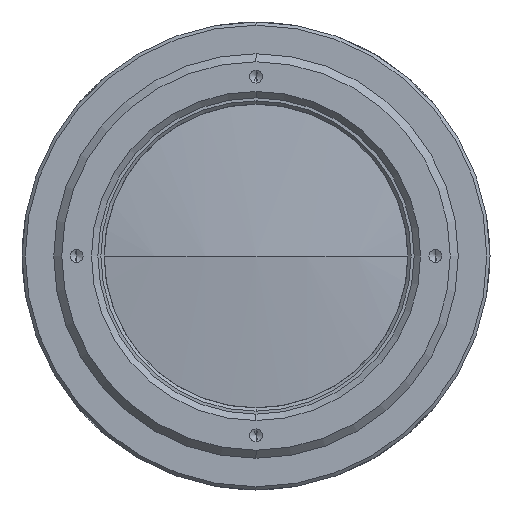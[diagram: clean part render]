
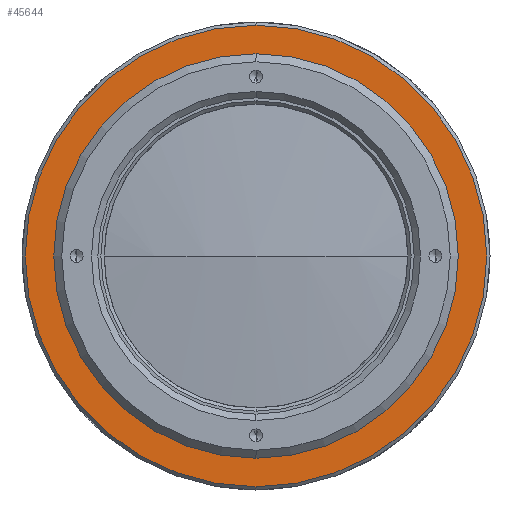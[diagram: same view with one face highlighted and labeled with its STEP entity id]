
A CAD part, left-side view. The second image highlights one B-rep face of the part: STEP entity #45644.
In plain terms, the highlighted planar face has unit normal (-1, 0, 0).
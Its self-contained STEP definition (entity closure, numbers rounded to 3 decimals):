
#1738 = FACE_OUTER_BOUND ( 'NONE', #57557, .T. ) ;
#2419 = ORIENTED_EDGE ( 'NONE', *, *, #29701, .F. ) ;
#4776 = DIRECTION ( 'NONE',  ( 0., 0., 1. ) ) ;
#6149 = DIRECTION ( 'NONE',  ( 0., 0., -1. ) ) ;
#8595 = DIRECTION ( 'NONE',  ( -1., 0., 0. ) ) ;
#8773 = VERTEX_POINT ( 'NONE', #30312 ) ;
#9019 = CIRCLE ( 'NONE', #29233, 18.246 ) ;
#9789 = DIRECTION ( 'NONE',  ( -1., 0., 0. ) ) ;
#12071 = CARTESIAN_POINT ( 'NONE',  ( -12.975, 18.5, 0. ) ) ;
#13147 = AXIS2_PLACEMENT_3D ( 'NONE', #53847, #64554, #39555 ) ;
#13624 = CARTESIAN_POINT ( 'NONE',  ( -12.975, 0., -15.25 ) ) ;
#14262 = DIRECTION ( 'NONE',  ( 0., 0., 1. ) ) ;
#19911 = AXIS2_PLACEMENT_3D ( 'NONE', #35439, #9789, #4776 ) ;
#20036 = ORIENTED_EDGE ( 'NONE', *, *, #58466, .F. ) ;
#21083 = CARTESIAN_POINT ( 'NONE',  ( -12.975, 0., -18.246 ) ) ;
#22153 = DIRECTION ( 'NONE',  ( -1., 0., 0. ) ) ;
#26303 = CARTESIAN_POINT ( 'NONE',  ( -12.975, 0., 15.25 ) ) ;
#26750 = EDGE_CURVE ( 'NONE', #8773, #53241, #33380, .T. ) ;
#27835 = EDGE_CURVE ( 'NONE', #53241, #8773, #9019, .T. ) ;
#29233 = AXIS2_PLACEMENT_3D ( 'NONE', #62818, #22153, #6149 ) ;
#29701 = EDGE_CURVE ( 'NONE', #32064, #56596, #47580, .T. ) ;
#30312 = CARTESIAN_POINT ( 'NONE',  ( -12.975, 0., 18.246 ) ) ;
#31075 = ORIENTED_EDGE ( 'NONE', *, *, #27835, .T. ) ;
#32064 = VERTEX_POINT ( 'NONE', #26303 ) ;
#32397 = DIRECTION ( 'NONE',  ( 0., 0., -1. ) ) ;
#33380 = CIRCLE ( 'NONE', #13147, 18.246 ) ;
#34923 = CARTESIAN_POINT ( 'NONE',  ( -12.975, 0., 0. ) ) ;
#35439 = CARTESIAN_POINT ( 'NONE',  ( -12.975, 0., 0. ) ) ;
#37705 = CIRCLE ( 'NONE', #54719, 15.25 ) ;
#38562 = ORIENTED_EDGE ( 'NONE', *, *, #26750, .T. ) ;
#39555 = DIRECTION ( 'NONE',  ( 0., 0., -1. ) ) ;
#45644 = ADVANCED_FACE ( 'NONE', ( #1738, #63094 ), #48098, .F. ) ;
#47580 = CIRCLE ( 'NONE', #19911, 15.25 ) ;
#48098 = PLANE ( 'NONE',  #53247 ) ;
#53241 = VERTEX_POINT ( 'NONE', #21083 ) ;
#53247 = AXIS2_PLACEMENT_3D ( 'NONE', #12071, #53415, #32397 ) ;
#53415 = DIRECTION ( 'NONE',  ( 1., 0., 0. ) ) ;
#53847 = CARTESIAN_POINT ( 'NONE',  ( -12.975, 0., 0. ) ) ;
#54719 = AXIS2_PLACEMENT_3D ( 'NONE', #34923, #8595, #14262 ) ;
#56596 = VERTEX_POINT ( 'NONE', #13624 ) ;
#57557 = EDGE_LOOP ( 'NONE', ( #31075, #38562 ) ) ;
#58466 = EDGE_CURVE ( 'NONE', #56596, #32064, #37705, .T. ) ;
#62181 = EDGE_LOOP ( 'NONE', ( #2419, #20036 ) ) ;
#62818 = CARTESIAN_POINT ( 'NONE',  ( -12.975, 0., 0. ) ) ;
#63094 = FACE_BOUND ( 'NONE', #62181, .T. ) ;
#64554 = DIRECTION ( 'NONE',  ( -1., 0., 0. ) ) ;
